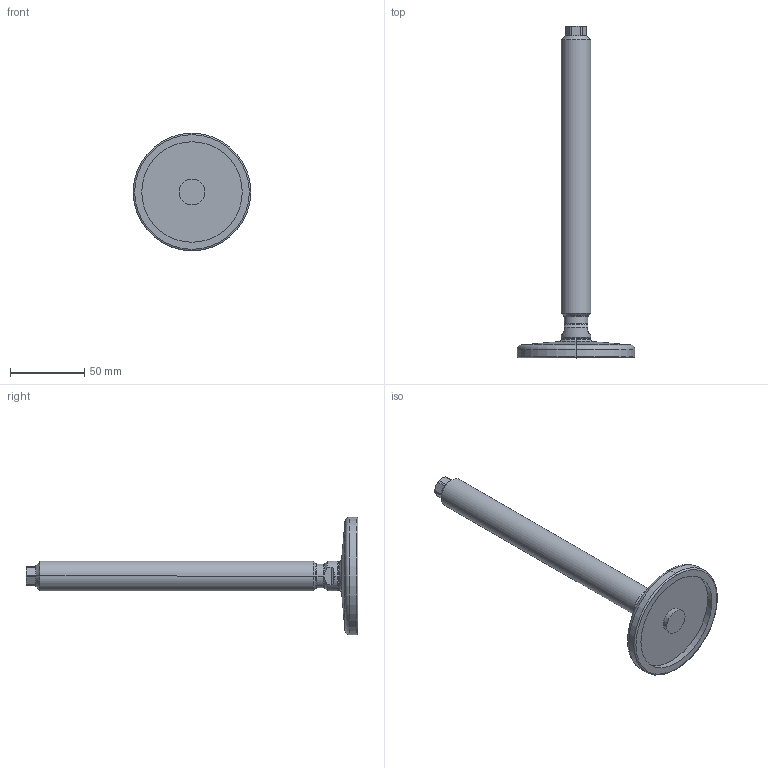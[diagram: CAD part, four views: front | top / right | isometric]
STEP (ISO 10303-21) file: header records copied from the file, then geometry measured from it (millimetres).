
FILE_DESCRIPTION (( 'STEP AP214' ), '1' );
FILE_NAME ('21-80-M20-200-D0-V.step', '2020-10-02T17:35:54', ( '' ), ( '' ), 'SwSTEP 2.0', 'SolidWorks 2019', '' );
FILE_SCHEMA (( 'AUTOMOTIVE_DESIGN' ));
Length unit declared in the file: millimetre
Products named in the file (3): 21-80-M20-200-D0-V; WB21_Spindel_V^WB21_V_M20-200; WB21_Fußteller 21^WB21_V_D0-080-R12-B9 (M20)
Assembly tree (2 placements, depth 2):
  21-80-M20-200-D0-V
    WB21_Fußteller 21^WB21_V_D0-080-R12-B9 (M20)
    WB21_Spindel_V^WB21_V_M20-200
Bounding box: 79 x 223.02 x 79 mm (x, y, z)
Volume: 95467.7 mm3; surface area: 26825.4 mm2
Topology: 2 solids, 2 shells, 79 faces, 177 edges, 105 vertices
Faces by surface type: cylinder 23, cone 21, plane 21, torus 10, sphere 4
Entity records: 2434 total; most frequent: CARTESIAN_POINT 518, DIRECTION 406, ORIENTED_EDGE 354, EDGE_CURVE 177, AXIS2_PLACEMENT_3D 173, VERTEX_POINT 105, CIRCLE 89, EDGE_LOOP 82
